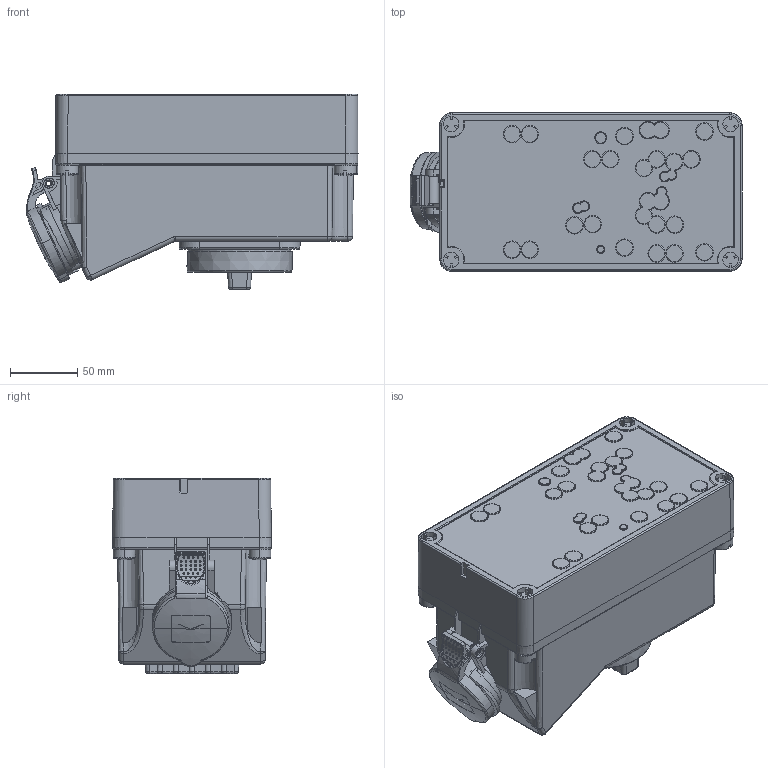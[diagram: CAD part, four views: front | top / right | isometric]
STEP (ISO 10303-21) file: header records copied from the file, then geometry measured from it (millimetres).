
FILE_DESCRIPTION (( 'STEP AP203' ), '1' );
FILE_NAME ('DIS5601683 (WIS 3p 16ﾀ 230ﾂ IP44).STEP', '2024-08-21T06:41:43', ( '' ), ( '' ), 'SwSTEP 2.0', 'SolidWorks 2022', '' );
FILE_SCHEMA (( 'CONFIG_CONTROL_DESIGN' ));
Length unit declared in the file: millimetre
Products named in the file (1): DIS5601683 (WIS 3p 16А 230В IP44)
Bounding box: 247.17 x 118 x 145.31 mm (x, y, z)
Volume: 2947237.5 mm3; surface area: 194017.1 mm2
Topology: 3 solids, 53 shells, 1690 faces, 4107 edges, 2585 vertices
Faces by surface type: cylinder 517, plane 464, bspline 309, torus 235, cone 105, sphere 60
Entity records: 77059 total; most frequent: CARTESIAN_POINT 40079, ORIENTED_EDGE 8198, DIRECTION 7018, EDGE_CURVE 4099, AXIS2_PLACEMENT_3D 2871, VERTEX_POINT 2585, EDGE_LOOP 1776, FACE_OUTER_BOUND 1690
